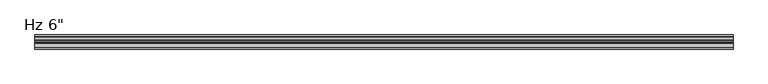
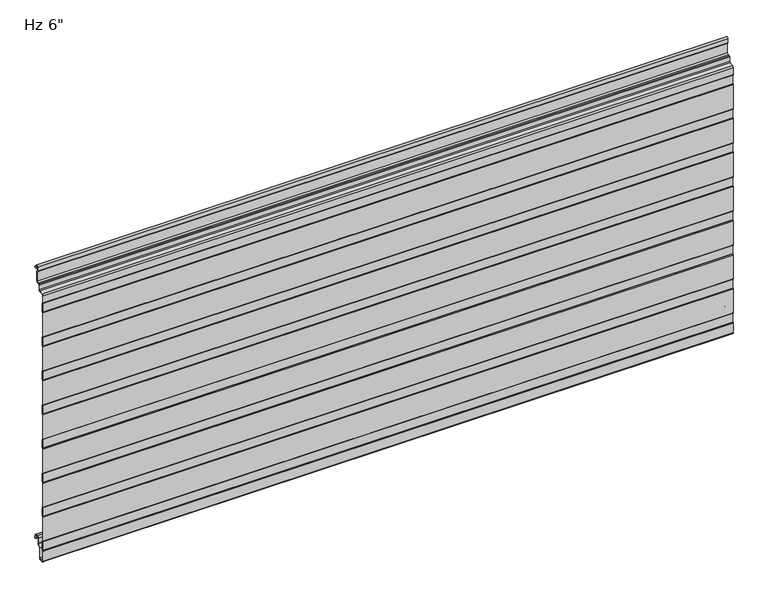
"""IFC4 building model written with IfcOpenShell, lengths in millimetres: plate geometry."""

from ifc_helpers import new_model, si_unit, point, frame, frame_2d, origin, place, context, project, spatial, polyline, circle_curve, trimmed, segment, composite_curve, outline, extrude, source, transform, mapped, element, save


def plate_dd146152(model_context):
    return source(origin(), model_context, "Body", "SweptSolid", [
        extrude(outline(composite_curve([segment(trimmed(circle_curve(frame_2d((-150.9998717, -10.6415934)), 1.3998661), [point((-152.3997378, -10.6415934))], [point((-151.9324955, -9.5976403))], False, "CARTESIAN"), True, "CONTINUOUS"), segment(polyline([(-151.9324955, -9.5976403), (-151.1997693, -8.8649141), (-151.1997693, 10.0260713), (-151.9327349, 10.7590369)]), True, "CONTINUOUS"), segment(trimmed(circle_curve(frame_2d((-151.0000237, 11.8030877)), 1.3999972), [point((-151.9327349, 10.7590369))], [point((-152.4, 11.810741))], False, "CARTESIAN"), True, "CONTINUOUS"), segment(polyline([(-152.4, 11.810741), (-152.4, 65.5582542)]), True, "CONTINUOUS"), segment(trimmed(circle_curve(frame_2d((-151.0000028, 65.5582542)), 1.3999972), [point((-152.4, 65.5582542))], [point((-151.932714, 66.602305))], False, "CARTESIAN"), True, "CONTINUOUS"), segment(polyline([(-151.932714, 66.602305), (-151.1997693, 67.3352497), (-151.1997693, 86.2259189), (-151.9327349, 86.9588845)]), True, "CONTINUOUS"), segment(trimmed(circle_curve(frame_2d((-151.0000237, 88.0029353)), 1.3999972), [point((-151.9327349, 86.9588845))], [point((-152.4, 88.0105886))], False, "CARTESIAN"), True, "CONTINUOUS"), segment(polyline([(-152.4, 88.0105886), (-152.4, 141.7581018)]), True, "CONTINUOUS"), segment(trimmed(circle_curve(frame_2d((-151.0000028, 141.7581018)), 1.3999972), [point((-152.4, 141.7581018))], [point((-151.932714, 142.8021526))], False, "CARTESIAN"), True, "CONTINUOUS"), segment(polyline([(-151.932714, 142.8021526), (-151.1997693, 143.5350973), (-151.1997693, 162.4257665), (-151.9327349, 163.1587321)]), True, "CONTINUOUS"), segment(trimmed(circle_curve(frame_2d((-151.0000237, 164.2027829)), 1.3999972), [point((-151.9327349, 163.1587321))], [point((-152.4, 164.2104362))], False, "CARTESIAN"), True, "CONTINUOUS"), segment(polyline([(-152.4, 164.2104362), (-152.4, 217.9579494)]), True, "CONTINUOUS"), segment(trimmed(circle_curve(frame_2d((-151.0000028, 217.9579494)), 1.3999972), [point((-152.4, 217.9579494))], [point((-151.932714, 219.0020002))], False, "CARTESIAN"), True, "CONTINUOUS"), segment(polyline([(-151.932714, 219.0020002), (-151.1997693, 219.7349449), (-151.1997693, 238.6256141), (-151.9327349, 239.3585797)]), True, "CONTINUOUS"), segment(trimmed(circle_curve(frame_2d((-151.0000237, 240.4026305)), 1.3999972), [point((-151.9327349, 239.3585797))], [point((-152.4, 240.4102838))], False, "CARTESIAN"), True, "CONTINUOUS"), segment(polyline([(-152.4, 240.4102838), (-152.4, 294.157797)]), True, "CONTINUOUS"), segment(trimmed(circle_curve(frame_2d((-151.0000028, 294.157797)), 1.3999972), [point((-152.4, 294.157797))], [point((-151.932714, 295.2018478))], False, "CARTESIAN"), True, "CONTINUOUS"), segment(polyline([(-151.932714, 295.2018478), (-151.1997693, 295.9347925), (-151.1997693, 314.8254617), (-151.9327349, 315.5584273)]), True, "CONTINUOUS"), segment(trimmed(circle_curve(frame_2d((-151.0000237, 316.6024781)), 1.3999972), [point((-151.9327349, 315.5584273))], [point((-152.4, 316.6101314))], False, "CARTESIAN"), True, "CONTINUOUS"), segment(polyline([(-152.4, 316.6101314), (-152.4, 370.3576446)]), True, "CONTINUOUS"), segment(trimmed(circle_curve(frame_2d((-151.0000028, 370.3576446)), 1.3999972), [point((-152.4, 370.3576446))], [point((-151.932714, 371.4016954))], False, "CARTESIAN"), True, "CONTINUOUS"), segment(polyline([(-151.932714, 371.4016954), (-151.1997693, 372.1346401), (-151.1997693, 391.0253093), (-151.9327349, 391.7582749)]), True, "CONTINUOUS"), segment(trimmed(circle_curve(frame_2d((-151.0000237, 392.8023257)), 1.3999972), [point((-151.9327349, 391.7582749))], [point((-152.4, 392.809979))], False, "CARTESIAN"), True, "CONTINUOUS"), segment(polyline([(-152.4, 392.809979), (-152.4, 446.5574922)]), True, "CONTINUOUS"), segment(trimmed(circle_curve(frame_2d((-151.0000028, 446.5574922)), 1.3999972), [point((-152.4, 446.5574922))], [point((-151.932714, 447.601543))], False, "CARTESIAN"), True, "CONTINUOUS"), segment(polyline([(-151.932714, 447.601543), (-151.1997693, 448.3344877), (-151.1997693, 467.2251569), (-151.9327349, 467.9581225)]), True, "CONTINUOUS"), segment(trimmed(circle_curve(frame_2d((-151.0000237, 469.0021733)), 1.3999972), [point((-151.9327349, 467.9581225))], [point((-152.4, 469.0098266))], False, "CARTESIAN"), True, "CONTINUOUS"), segment(polyline([(-152.4, 469.0098266), (-152.4, 522.7573398)]), True, "CONTINUOUS"), segment(trimmed(circle_curve(frame_2d((-151.0000028, 522.7573398)), 1.3999972), [point((-152.4, 522.7573398))], [point((-151.932714, 523.8013906))], False, "CARTESIAN"), True, "CONTINUOUS"), segment(polyline([(-151.932714, 523.8013906), (-151.1997693, 524.5343353), (-151.1997693, 543.4250045), (-151.9327349, 544.1579701)]), True, "CONTINUOUS"), segment(trimmed(circle_curve(frame_2d((-151.0000237, 545.2020209)), 1.3999972), [point((-151.9327349, 544.1579701))], [point((-152.3990984, 545.2528361))], False, "CARTESIAN"), True, "CONTINUOUS"), segment(polyline([(-152.3990984, 545.2528361), (-152.3990984, 561.1384359)]), True, "CONTINUOUS"), segment(trimmed(circle_curve(frame_2d((-149.4491043, 561.1384359)), 2.9499941), [point((-152.3990984, 561.1384359))], [point((-149.7062132, 564.0772044))], False, "CARTESIAN"), True, "CONTINUOUS"), segment(polyline([(-149.7062132, 564.0772044), (-141.2419168, 564.8177344)]), True, "CONTINUOUS"), segment(trimmed(circle_curve(frame_2d((-141.4188426, 566.8400056)), 2.0299959), [point((-141.2419168, 564.8177344))], [point((-139.3914567, 566.9429135))], True, "CARTESIAN"), True, "CONTINUOUS"), segment(polyline([(-139.3914567, 566.9429135), (-139.3914567, 577.0595941)]), True, "CONTINUOUS"), segment(trimmed(circle_curve(frame_2d((-137.4423033, 577.0595941)), 1.9491534), [point((-139.3914567, 577.0595941))], [point((-137.4423033, 579.0087475))], False, "CARTESIAN"), True, "CONTINUOUS"), segment(polyline([(-137.4423033, 579.0087475), (-134.3009036, 579.0087475)]), True, "CONTINUOUS"), segment(trimmed(circle_curve(frame_2d((-134.3009036, 582.0087415)), 2.999994), [point((-134.3009036, 579.0087475))], [point((-131.3009096, 582.0087415))], True, "CARTESIAN"), True, "CONTINUOUS"), segment(polyline([(-131.3009096, 582.0087415), (-131.3009096, 602.6122013), (-132.5467537, 603.3314897)]), True, "CONTINUOUS"), segment(trimmed(circle_curve(frame_2d((-131.8217552, 604.587224)), 1.4499971), [point((-132.5467537, 603.3314897))], [point((-133.2709833, 604.6344401))], False, "CARTESIAN"), True, "CONTINUOUS"), segment(polyline([(-133.2709833, 604.6344401), (-132.926075, 613.3463704)]), True, "CONTINUOUS"), segment(trimmed(circle_curve(frame_2d((-129.8266291, 613.2236622)), 3.1018739), [point((-132.926075, 613.3463704))], [point((-126.7275082, 613.3543204))], False, "CARTESIAN"), True, "CONTINUOUS"), segment(polyline([(-126.7275082, 613.3543204), (-126.4837214, 609.3587)]), True, "CONTINUOUS"), segment(trimmed(circle_curve(frame_2d((-125.6434917, 609.4099653)), 0.8417922), [point((-126.4837214, 609.3587))], [point((-125.6729389, 608.5686884))], True, "CARTESIAN"), True, "CONTINUOUS"), segment(polyline([(-125.6729389, 608.5686884), (-122.9025061, 608.5686884), (-122.9025061, 607.5686884), (-125.6870527, 607.5686884)]), True, "CONTINUOUS"), segment(trimmed(circle_curve(frame_2d((-125.6434917, 609.4099653)), 1.8417922), [point((-125.6870527, 607.5686884))], [point((-127.4818653, 609.2977997))], False, "CARTESIAN"), True, "CONTINUOUS"), segment(polyline([(-127.4818653, 609.2977997), (-127.7262802, 613.3037148)]), True, "CONTINUOUS"), segment(trimmed(circle_curve(frame_2d((-129.8266291, 613.2236622)), 2.1018739), [point((-127.7262802, 613.3037148))], [point((-131.9268578, 613.306811))], True, "CARTESIAN"), True, "CONTINUOUS"), segment(polyline([(-131.9268578, 613.306811), (-132.2821181, 604.3334028), (-130.3009096, 603.1895515), (-130.3009096, 582.0087415)]), True, "CONTINUOUS"), segment(trimmed(circle_curve(frame_2d((-134.3009036, 582.0087415)), 3.999994), [point((-130.3009096, 582.0087415))], [point((-134.3009036, 578.0087475))], False, "CARTESIAN"), True, "CONTINUOUS"), segment(polyline([(-134.3009036, 578.0087475), (-137.4423033, 578.0087475)]), True, "CONTINUOUS"), segment(trimmed(circle_curve(frame_2d((-137.4423033, 577.0595941)), 0.9491534), [point((-137.4423033, 578.0087475))], [point((-138.3914567, 577.0595941))], True, "CARTESIAN"), True, "CONTINUOUS"), segment(polyline([(-138.3914567, 577.0595941), (-138.3914567, 566.9657441)]), True, "CONTINUOUS"), segment(trimmed(circle_curve(frame_2d((-141.4188426, 566.8400056)), 3.0299959), [point((-138.3914567, 566.9657441))], [point((-141.154761, 563.8215397))], False, "CARTESIAN"), True, "CONTINUOUS"), segment(polyline([(-141.154761, 563.8215397), (-149.6190575, 563.0810097)]), True, "CONTINUOUS"), segment(trimmed(circle_curve(frame_2d((-149.4491043, 561.1384359)), 1.9499941), [point((-149.6190575, 563.0810097))], [point((-151.3990984, 561.1384359))], True, "CARTESIAN"), True, "CONTINUOUS"), segment(polyline([(-151.3990984, 561.1384359), (-151.3990984, 545.0396538), (-150.1997693, 543.8403247), (-150.1997693, 524.1209122), (-151.4, 522.9206815), (-151.4, 468.8405497), (-150.1997693, 467.640319), (-150.1997693, 447.9209065), (-151.4, 446.7206758), (-151.4, 392.640544), (-150.1997693, 391.4403133), (-150.1997693, 371.7209008), (-151.4, 370.5206701), (-151.4, 316.4405383), (-150.1997693, 315.2403076), (-150.1997693, 295.5208951), (-151.4, 294.3206644), (-151.4, 240.2405326), (-150.1997693, 239.0403019), (-150.1997693, 219.3208894), (-151.4, 218.1206587), (-151.4, 164.0405269), (-150.1997693, 162.8402962), (-150.1997693, 143.1208837), (-151.4, 141.920653), (-151.4, 87.8405213), (-150.1997693, 86.6402905), (-150.1997693, 66.920878), (-151.4, 65.7206473), (-151.4, 11.6405156), (-150.1997693, 10.4402849), (-150.1997693, -9.2791277), (-151.3997378, -10.4790962), (-151.3997378, -32.4521176)]), True, "CONTINUOUS"), segment(trimmed(circle_curve(frame_2d((-148.8294985, -32.4521176)), 2.5702393), [point((-151.3997378, -32.4521176))], [point((-148.6054129, -35.0125699))], True, "CARTESIAN"), True, "CONTINUOUS"), segment(polyline([(-148.6054129, -35.0125699), (-143.623592, -34.5765709)]), True, "CONTINUOUS"), segment(trimmed(circle_curve(frame_2d((-144.1049826, -31.9198392)), 2.6999926), [point((-143.623592, -34.5765709))], [point((-141.40499, -31.9198392))], True, "CARTESIAN"), True, "CONTINUOUS"), segment(polyline([(-141.40499, -31.9198392), (-141.40499, -9.8247096), (-135.9029189, -4.3226385)]), True, "CONTINUOUS"), segment(trimmed(circle_curve(frame_2d((-137.1049966, -3.1205608)), 1.6999946), [point((-135.9029189, -4.3226385))], [point((-135.405002, -3.1205608))], True, "CARTESIAN"), True, "CONTINUOUS"), segment(polyline([(-135.405002, -3.1205608), (-135.405002, 8.6903283)]), True, "CONTINUOUS"), segment(trimmed(circle_curve(frame_2d((-132.0550067, 8.6903283)), 3.3499953), [point((-135.405002, 8.6903283))], [point((-132.0550067, 12.0403236))], False, "CARTESIAN"), True, "CONTINUOUS"), segment(polyline([(-132.0550067, 12.0403236), (-127.6550155, 12.0403236)]), True, "CONTINUOUS"), segment(trimmed(circle_curve(frame_2d((-127.6550155, 8.6903283)), 3.3499953), [point((-127.6550155, 12.0403236))], [point((-124.3050202, 8.6903283))], False, "CARTESIAN"), True, "CONTINUOUS"), segment(polyline([(-124.3050202, 8.6903283), (-124.3050202, 5.9912173), (-122.9065413, 5.9912173), (-122.9065413, 2.2328239)]), True, "CONTINUOUS"), segment(trimmed(circle_curve(frame_2d((-124.106538, 2.2313092)), 1.1999976), [point((-122.9065413, 2.2328239))], [point((-124.0760161, 1.0316999))], False, "CARTESIAN"), True, "CONTINUOUS"), segment(trimmed(circle_curve(frame_2d((-124.106538, 2.2313092)), 1.1999976), [point((-124.0760161, 1.0316999))], [point((-125.3050202, 2.1710221))], False, "CARTESIAN"), True, "CONTINUOUS"), segment(polyline([(-125.3050202, 2.1710221), (-125.3050202, 8.6903283)]), True, "CONTINUOUS"), segment(trimmed(circle_curve(frame_2d((-127.6550155, 8.6903283)), 2.3499953), [point((-125.3050202, 8.6903283))], [point((-127.6550155, 11.0403236))], True, "CARTESIAN"), True, "CONTINUOUS"), segment(polyline([(-127.6550155, 11.0403236), (-132.0550067, 11.0403236)]), True, "CONTINUOUS"), segment(trimmed(circle_curve(frame_2d((-132.0550067, 8.6903283)), 2.3499953), [point((-132.0550067, 11.0403236))], [point((-134.405002, 8.6903283))], True, "CARTESIAN"), True, "CONTINUOUS"), segment(polyline([(-134.405002, 8.6903283), (-134.405002, -3.1205608)]), True, "CONTINUOUS"), segment(trimmed(circle_curve(frame_2d((-137.1049966, -3.1205608)), 2.6999946), [point((-134.405002, -3.1205608))], [point((-135.1958121, -5.0297453))], False, "CARTESIAN"), True, "CONTINUOUS"), segment(polyline([(-135.1958121, -5.0297453), (-140.0242296, -9.8581627)]), True, "CONTINUOUS"), segment(trimmed(circle_curve(frame_2d((-139.1049926, -10.7773997)), 1.2999974), [point((-140.0242296, -9.8581627))], [point((-140.40499, -10.7773997))], True, "CARTESIAN"), True, "CONTINUOUS"), segment(polyline([(-140.40499, -10.7773997), (-140.40499, -31.9198392)]), True, "CONTINUOUS"), segment(trimmed(circle_curve(frame_2d((-144.1049826, -31.9198392)), 3.6999926), [point((-140.40499, -31.9198392))], [point((-143.4941815, -35.5690675))], False, "CARTESIAN"), True, "CONTINUOUS"), segment(polyline([(-143.4941815, -35.5690675), (-148.5182281, -36.008762)]), True, "CONTINUOUS"), segment(trimmed(circle_curve(frame_2d((-148.8294985, -32.4521176)), 3.5702393), [point((-148.5182281, -36.008762))], [point((-152.3997378, -32.4521176))], False, "CARTESIAN"), True, "CONTINUOUS"), segment(polyline([(-152.3997378, -32.4521176), (-152.3997378, -10.6415934)]), True, "CONTINUOUS")], self_intersect=False)), frame((-730.0, 0.0, 0.0), z_axis=(1.0, 0.0, 0.0), x_axis=(0.0, 1.0, 0.0)), (0.0, 0.0, 1.0), 1460.0),
    ])


if __name__ == "__main__":
    model = new_model("IFC4")
    model_context = context("Model", 3, world=origin())
    ifc_project = project(units=[si_unit("LENGTHUNIT", "METRE", prefix="MILLI")], contexts=[model_context])
    site = spatial("IfcSite", under=ifc_project)
    building = spatial("IfcBuilding", under=site)
    placement = place(None, origin())
    plate_shape = plate_dd146152(model_context)
    element("IfcPlate", 1, ObjectType="KIP-24-Karrier-KP-R19-CP-Hz-SL3-8in_SL : Hz 6\"", at=placement, inside=building, context=model_context, shape_type="MappedRepresentation", body=[
        mapped(plate_shape, transform((0.0, 0.0, 0.0), x_axis=(1.0, 0.0, 0.0), y_axis=(0.0, 1.0, 0.0), z_axis=(0.0, 0.0, 1.0))),
    ])
    save(model, "model.ifc")
